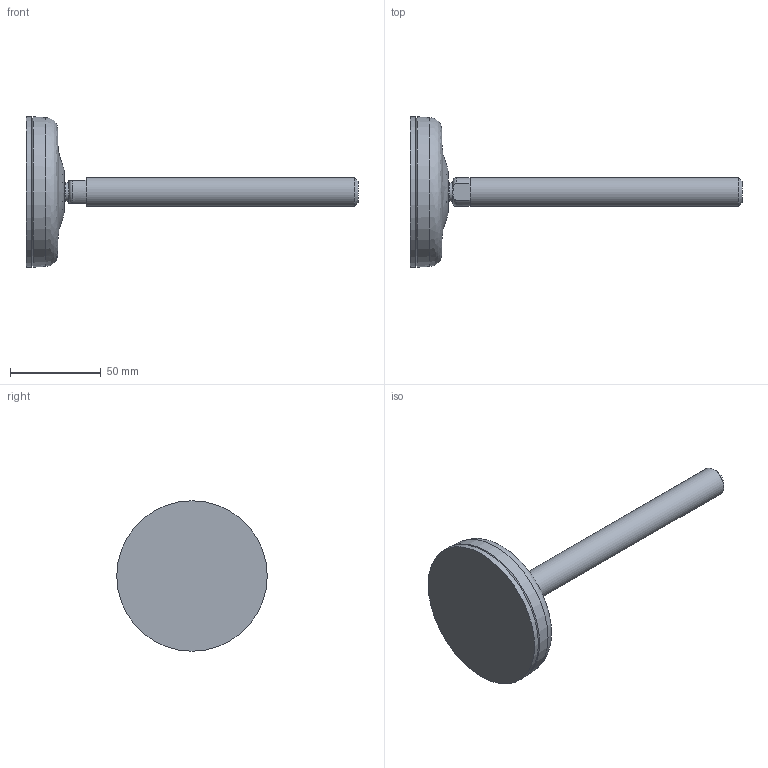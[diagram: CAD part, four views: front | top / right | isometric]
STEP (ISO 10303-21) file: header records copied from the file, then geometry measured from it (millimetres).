
FILE_DESCRIPTION(('STEP AP203'),'2;1');
FILE_NAME('18529.stp','2015-03-16T10:30:34',(''),(''),'2008.1.107','THINKDESIGN','');
FILE_SCHEMA(('CONFIG_CONTROL_DESIGN'));
Length unit declared in the file: millimetre
Bounding box: 183.1 x 83 x 83 mm (x, y, z)
Volume: 126471.8 mm3; surface area: 34164.1 mm2
Topology: 5 solids, 5 shells, 26 faces, 56 edges, 41 vertices
Faces by surface type: plane 13, bspline 8, cylinder 5
Full cylindrical faces by diameter (mm): 10.292 x1, 16 x1, 83 x1
Entity records: 1356 total; most frequent: CARTESIAN_POINT 678, DIRECTION 132, ORIENTED_EDGE 112, AXIS2_PLACEMENT_3D 60, EDGE_CURVE 56, CIRCLE 42, VERTEX_POINT 41, EDGE_LOOP 27
